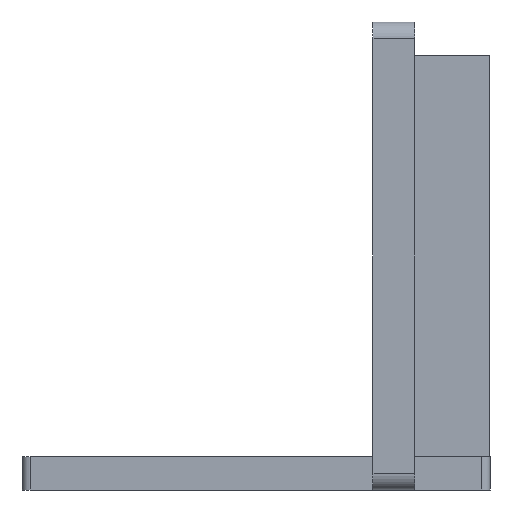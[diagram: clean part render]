
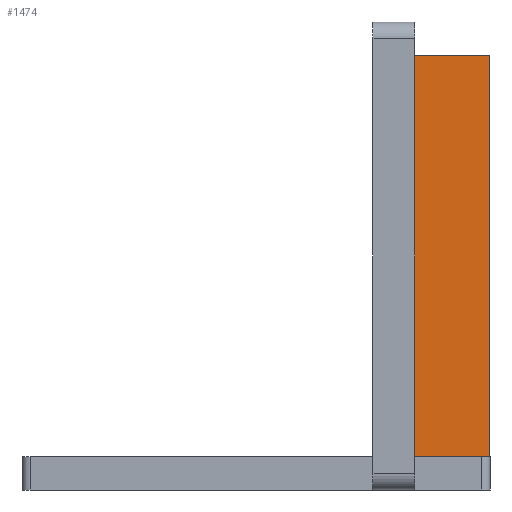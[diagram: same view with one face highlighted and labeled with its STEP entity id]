
A CAD part, left-side view. The second image highlights one B-rep face of the part: STEP entity #1474.
In plain terms, the highlighted planar face has unit normal (-1, 0, 0).
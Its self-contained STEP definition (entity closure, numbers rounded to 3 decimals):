
#70 = PLANE('',#71);
#71 = AXIS2_PLACEMENT_3D('',#72,#73,#74);
#72 = CARTESIAN_POINT('',(0.,9.,0.));
#73 = DIRECTION('',(0.,-1.,0.));
#74 = DIRECTION('',(1.,0.,0.));
#439 = VERTEX_POINT('',#440);
#440 = CARTESIAN_POINT('',(10.,9.,4.));
#454 = PLANE('',#455);
#455 = AXIS2_PLACEMENT_3D('',#456,#457,#458);
#456 = CARTESIAN_POINT('',(10.,14.,4.));
#457 = DIRECTION('',(0.,0.,1.));
#458 = DIRECTION('',(0.,-1.,0.));
#466 = EDGE_CURVE('',#439,#467,#469,.T.);
#467 = VERTEX_POINT('',#468);
#468 = CARTESIAN_POINT('',(10.,9.,52.));
#469 = SURFACE_CURVE('',#470,(#474,#481),.PCURVE_S1.);
#470 = LINE('',#471,#472);
#471 = CARTESIAN_POINT('',(10.,9.,2.));
#472 = VECTOR('',#473,1.);
#473 = DIRECTION('',(0.,0.,1.));
#474 = PCURVE('',#70,#475);
#475 = DEFINITIONAL_REPRESENTATION('',(#476),#480);
#476 = LINE('',#477,#478);
#477 = CARTESIAN_POINT('',(10.,2.));
#478 = VECTOR('',#479,1.);
#479 = DIRECTION('',(0.,1.));
#480 = ( GEOMETRIC_REPRESENTATION_CONTEXT(2) 
PARAMETRIC_REPRESENTATION_CONTEXT() REPRESENTATION_CONTEXT('2D SPACE',''
  ) );
#481 = PCURVE('',#482,#487);
#482 = PLANE('',#483);
#483 = AXIS2_PLACEMENT_3D('',#484,#485,#486);
#484 = CARTESIAN_POINT('',(10.,14.,4.));
#485 = DIRECTION('',(1.,0.,0.));
#486 = DIRECTION('',(0.,-1.,0.));
#487 = DEFINITIONAL_REPRESENTATION('',(#488),#492);
#488 = LINE('',#489,#490);
#489 = CARTESIAN_POINT('',(5.,2.));
#490 = VECTOR('',#491,1.);
#491 = DIRECTION('',(0.,-1.));
#492 = ( GEOMETRIC_REPRESENTATION_CONTEXT(2) 
PARAMETRIC_REPRESENTATION_CONTEXT() REPRESENTATION_CONTEXT('2D SPACE',''
  ) );
#510 = PLANE('',#511);
#511 = AXIS2_PLACEMENT_3D('',#512,#513,#514);
#512 = CARTESIAN_POINT('',(10.,14.,52.));
#513 = DIRECTION('',(0.,0.,1.));
#514 = DIRECTION('',(0.,-1.,0.));
#1377 = EDGE_CURVE('',#439,#1378,#1380,.T.);
#1378 = VERTEX_POINT('',#1379);
#1379 = CARTESIAN_POINT('',(10.,0.,4.));
#1380 = SURFACE_CURVE('',#1381,(#1385,#1392),.PCURVE_S1.);
#1381 = LINE('',#1382,#1383);
#1382 = CARTESIAN_POINT('',(10.,14.,4.));
#1383 = VECTOR('',#1384,1.);
#1384 = DIRECTION('',(0.,-1.,0.));
#1385 = PCURVE('',#454,#1386);
#1386 = DEFINITIONAL_REPRESENTATION('',(#1387),#1391);
#1387 = LINE('',#1388,#1389);
#1388 = CARTESIAN_POINT('',(0.,0.));
#1389 = VECTOR('',#1390,1.);
#1390 = DIRECTION('',(1.,0.));
#1391 = ( GEOMETRIC_REPRESENTATION_CONTEXT(2) 
PARAMETRIC_REPRESENTATION_CONTEXT() REPRESENTATION_CONTEXT('2D SPACE',''
  ) );
#1392 = PCURVE('',#482,#1393);
#1393 = DEFINITIONAL_REPRESENTATION('',(#1394),#1398);
#1394 = LINE('',#1395,#1396);
#1395 = CARTESIAN_POINT('',(0.,0.));
#1396 = VECTOR('',#1397,1.);
#1397 = DIRECTION('',(1.,0.));
#1398 = ( GEOMETRIC_REPRESENTATION_CONTEXT(2) 
PARAMETRIC_REPRESENTATION_CONTEXT() REPRESENTATION_CONTEXT('2D SPACE',''
  ) );
#1414 = PLANE('',#1415);
#1415 = AXIS2_PLACEMENT_3D('',#1416,#1417,#1418);
#1416 = CARTESIAN_POINT('',(10.,0.,4.));
#1417 = DIRECTION('',(0.,-1.,0.));
#1418 = DIRECTION('',(1.,0.,0.));
#1474 = ADVANCED_FACE('',(#1475),#482,.F.);
#1475 = FACE_BOUND('',#1476,.F.);
#1476 = EDGE_LOOP('',(#1477,#1478,#1479,#1502));
#1477 = ORIENTED_EDGE('',*,*,#1377,.F.);
#1478 = ORIENTED_EDGE('',*,*,#466,.T.);
#1479 = ORIENTED_EDGE('',*,*,#1480,.T.);
#1480 = EDGE_CURVE('',#467,#1481,#1483,.T.);
#1481 = VERTEX_POINT('',#1482);
#1482 = CARTESIAN_POINT('',(10.,0.,52.));
#1483 = SURFACE_CURVE('',#1484,(#1488,#1495),.PCURVE_S1.);
#1484 = LINE('',#1485,#1486);
#1485 = CARTESIAN_POINT('',(10.,14.,52.));
#1486 = VECTOR('',#1487,1.);
#1487 = DIRECTION('',(0.,-1.,0.));
#1488 = PCURVE('',#482,#1489);
#1489 = DEFINITIONAL_REPRESENTATION('',(#1490),#1494);
#1490 = LINE('',#1491,#1492);
#1491 = CARTESIAN_POINT('',(0.,-48.));
#1492 = VECTOR('',#1493,1.);
#1493 = DIRECTION('',(1.,0.));
#1494 = ( GEOMETRIC_REPRESENTATION_CONTEXT(2) 
PARAMETRIC_REPRESENTATION_CONTEXT() REPRESENTATION_CONTEXT('2D SPACE',''
  ) );
#1495 = PCURVE('',#510,#1496);
#1496 = DEFINITIONAL_REPRESENTATION('',(#1497),#1501);
#1497 = LINE('',#1498,#1499);
#1498 = CARTESIAN_POINT('',(0.,0.));
#1499 = VECTOR('',#1500,1.);
#1500 = DIRECTION('',(1.,0.));
#1501 = ( GEOMETRIC_REPRESENTATION_CONTEXT(2) 
PARAMETRIC_REPRESENTATION_CONTEXT() REPRESENTATION_CONTEXT('2D SPACE',''
  ) );
#1502 = ORIENTED_EDGE('',*,*,#1503,.F.);
#1503 = EDGE_CURVE('',#1378,#1481,#1504,.T.);
#1504 = SURFACE_CURVE('',#1505,(#1509,#1516),.PCURVE_S1.);
#1505 = LINE('',#1506,#1507);
#1506 = CARTESIAN_POINT('',(10.,0.,4.));
#1507 = VECTOR('',#1508,1.);
#1508 = DIRECTION('',(0.,0.,1.));
#1509 = PCURVE('',#482,#1510);
#1510 = DEFINITIONAL_REPRESENTATION('',(#1511),#1515);
#1511 = LINE('',#1512,#1513);
#1512 = CARTESIAN_POINT('',(14.,0.));
#1513 = VECTOR('',#1514,1.);
#1514 = DIRECTION('',(0.,-1.));
#1515 = ( GEOMETRIC_REPRESENTATION_CONTEXT(2) 
PARAMETRIC_REPRESENTATION_CONTEXT() REPRESENTATION_CONTEXT('2D SPACE',''
  ) );
#1516 = PCURVE('',#1414,#1517);
#1517 = DEFINITIONAL_REPRESENTATION('',(#1518),#1522);
#1518 = LINE('',#1519,#1520);
#1519 = CARTESIAN_POINT('',(0.,0.));
#1520 = VECTOR('',#1521,1.);
#1521 = DIRECTION('',(0.,1.));
#1522 = ( GEOMETRIC_REPRESENTATION_CONTEXT(2) 
PARAMETRIC_REPRESENTATION_CONTEXT() REPRESENTATION_CONTEXT('2D SPACE',''
  ) );
